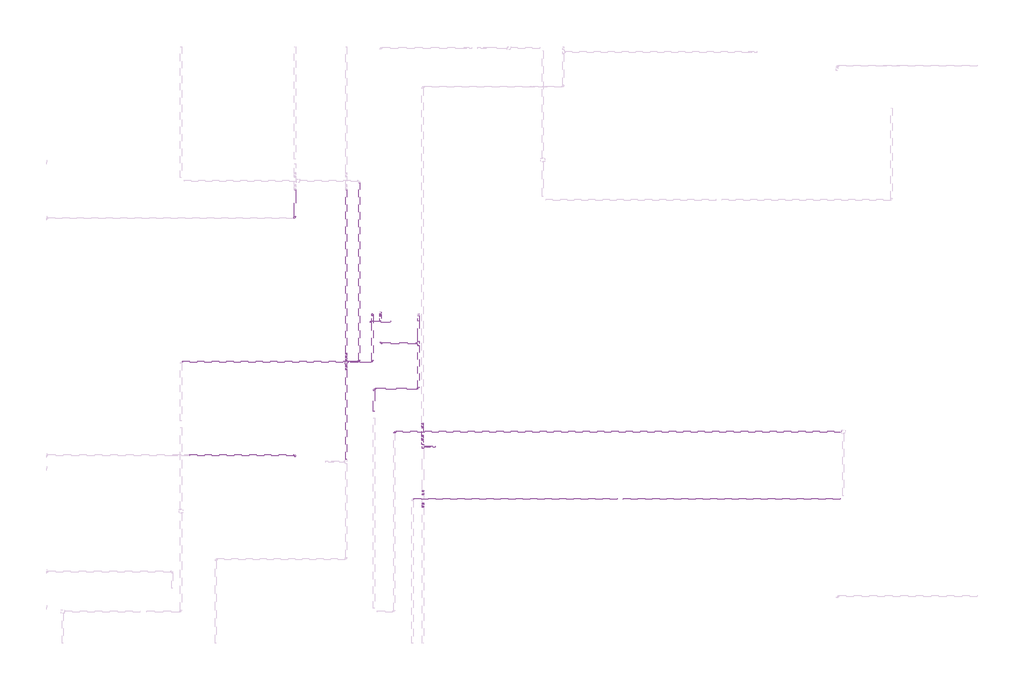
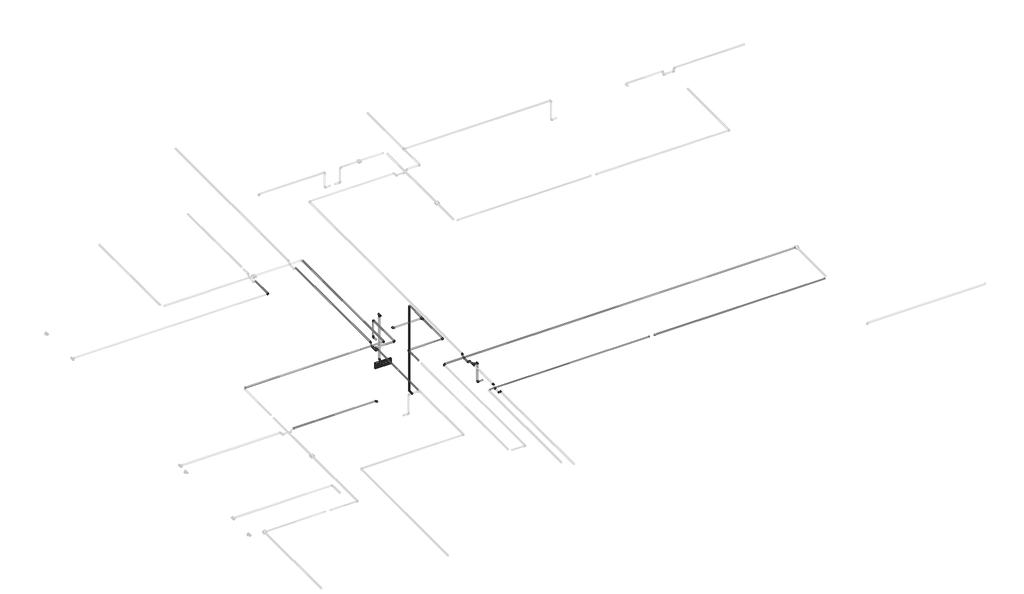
# One storey, part 34 of 40: 35 cable carrier segments, 30 cable carrier fittings, 1 alarm.
"""IFC4 building model written with IfcOpenShell, lengths in millimetres."""

from ifc_helpers import new_model, si_unit, point, frame, frame_2d, origin, place, context, project, spatial, circle_curve, trimmed, segment, composite_curve, outline, extrude, transform, mapped, element, save
from ifc_brep_helpers import plane_surface, cylinder_surface, advanced_brep
from components import alarm_4b7e8fd8, cable_carrier_fitting_69f1a801, cable_carrier_fitting_8122f9af, cable_carrier_fitting_8fd13dfc

model = new_model("IFC4")

# Units and contexts
model_context = context("Model", 3, world=origin())
ifc_project = project(units=[si_unit("LENGTHUNIT", "METRE", prefix="MILLI")], contexts=[model_context])

# Site, building, storey
site = spatial("IfcSite", under=ifc_project)
building = spatial("IfcBuilding", under=site)
storey = spatial("IfcBuildingStorey", under=building, Name="1 этаж", Elevation=0.0)

# Alarm
placement = place(None, origin())
alarm_shape = alarm_4b7e8fd8(model_context)
element("IfcAlarm", 1, ObjectType="RBZ_Оповещатель_Световой_Рубеж_ОПОП1-R3(грань) : ОПОП 1-R3 \"Выход\"", at=placement, inside=storey, context=model_context, shape_type="MappedRepresentation", body=[
    mapped(alarm_shape, transform((10642.6759979, 12064.6370105, 2300.0), x_axis=(1.0, 0.0, 0.0), y_axis=(0.0, 0.0, 1.0), z_axis=(0.0, -1.0, 0.0))),
])

# Cable carrier fittings
cable_carrier_fitting_shape = cable_carrier_fitting_69f1a801(model_context)
element("IfcCableCarrierFitting", 2, ObjectType="ADSK_Поворот_Минимальный размер : Неспецифицируемый", at=placement, inside=storey, context=model_context, shape_type="MappedRepresentation", body=[
    mapped(cable_carrier_fitting_shape, transform((10844.1759979, 10434.6370105, 3189.25), x_axis=(-1.0, 0.0, 0.0), y_axis=(0.0, -1.0, 0.0), z_axis=(0.0, 0.0, 1.0))),
])
element("IfcCableCarrierFitting", 3, ObjectType="ADSK_Поворот_Минимальный размер : Неспецифицируемый", at=placement, inside=storey, context=model_context, shape_type="MappedRepresentation", body=[
    mapped(cable_carrier_fitting_shape, transform((10642.6759979, 11734.6370105, 3189.25), x_axis=(0.0, -1.0, 0.0), y_axis=(1.0, 0.0, 0.0), z_axis=(0.0, 0.0, 1.0))),
])
element("IfcCableCarrierFitting", 4, ObjectType="ADSK_Поворот_Минимальный размер : Неспецифицируемый", at=placement, inside=storey, context=model_context, shape_type="MappedRepresentation", body=[
    mapped(cable_carrier_fitting_shape, transform((10327.6759979, 11464.6370416, 3189.2996955), x_axis=(0.999999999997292, 0.0, 2.327216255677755e-06), y_axis=(0.0, 1.0, 0.0), z_axis=(-2.327216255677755e-06, 0.0, 0.999999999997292))),
])
element("IfcCableCarrierFitting", 5, ObjectType="ADSK_Поворот_Минимальный размер : Неспецифицируемый", at=placement, inside=storey, context=model_context, shape_type="MappedRepresentation", body=[
    mapped(cable_carrier_fitting_shape, transform((11197.6759979, 11064.636788, 3189.25), x_axis=(0.9999999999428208, 0.0, -1.0693844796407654e-05), y_axis=(0.0, 1.0, 0.0), z_axis=(1.0693844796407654e-05, 0.0, 0.9999999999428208))),
])
element("IfcCableCarrierFitting", 6, ObjectType="ADSK_Поворот_Минимальный размер : Неспецифицируемый", at=placement, inside=storey, context=model_context, shape_type="MappedRepresentation", body=[
    mapped(cable_carrier_fitting_shape, transform((10547.6759458, 11064.636788, 3189.2549719), x_axis=(-0.9999999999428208, 0.0, 1.0693844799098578e-05), y_axis=(0.0, -1.0, 0.0), z_axis=(1.0693844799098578e-05, 0.0, 0.9999999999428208))),
])
element("IfcCableCarrierFitting", 7, ObjectType="ADSK_Поворот_Минимальный размер : Неспецифицируемый", at=placement, inside=storey, context=model_context, shape_type="MappedRepresentation", body=[
    mapped(cable_carrier_fitting_shape, transform((11350.4761923, 10214.6370105, 2797.4861504), x_axis=(-1.0, 0.0, 0.0), y_axis=(0.0, 0.0, 1.0), z_axis=(0.0, 1.0, 0.0))),
])
element("IfcCableCarrierFitting", 8, ObjectType="ADSK_Поворот_Минимальный размер : Неспецифицируемый", at=placement, inside=storey, context=model_context, shape_type="MappedRepresentation", body=[
    mapped(cable_carrier_fitting_shape, transform((11350.4761923, 10214.6370105, 3180.0), x_axis=(0.0, 0.0, 1.0), y_axis=(-1.0, 0.0, 0.0), z_axis=(0.0, -1.0, 0.0))),
])
element("IfcCableCarrierFitting", 9, ObjectType="ADSK_Поворот_Минимальный размер : Неспецифицируемый", at=placement, inside=storey, context=model_context, shape_type="MappedRepresentation", body=[
    mapped(cable_carrier_fitting_shape, transform((10522.6759979, 12161.8368161, 2797.4861504), x_axis=(0.0, 1.0, 0.0), y_axis=(0.0, 0.0, 1.0), z_axis=(1.0, 0.0, 0.0))),
])
element("IfcCableCarrierFitting", 10, ObjectType="ADSK_Поворот_Минимальный размер : Неспецифицируемый", at=placement, inside=storey, context=model_context, shape_type="MappedRepresentation", body=[
    mapped(cable_carrier_fitting_shape, transform((10642.6759979, 12161.8368161, 2300.0), x_axis=(0.0, 1.0, 0.0), y_axis=(0.0, 0.0, 1.0), z_axis=(1.0, 0.0, 0.0))),
])
element("IfcCableCarrierFitting", 11, ObjectType="ADSK_Поворот_Минимальный размер : Неспецифицируемый", at=placement, inside=storey, context=model_context, shape_type="MappedRepresentation", body=[
    mapped(cable_carrier_fitting_shape, transform((11197.6759979, 12161.8368161, 1500.0), x_axis=(0.0, 1.0, 0.0), y_axis=(0.0, 0.0, 1.0), z_axis=(1.0, 0.0, 0.0))),
])
element("IfcCableCarrierFitting", 12, ObjectType="ADSK_Поворот_Минимальный размер : Неспецифицируемый", at=placement, inside=storey, context=model_context, shape_type="MappedRepresentation", body=[
    mapped(cable_carrier_fitting_shape, transform((9382.6759979, 13578.8048473, 3187.0), x_axis=(1.0, 0.0, 0.0), y_axis=(0.0, 1.0, 0.0), z_axis=(0.0, 0.0, 1.0))),
])
element("IfcCableCarrierFitting", 13, ObjectType="ADSK_Поворот_Минимальный размер : Неспецифицируемый", at=placement, inside=storey, context=model_context, shape_type="MappedRepresentation", body=[
    mapped(cable_carrier_fitting_shape, transform((9386.5137184, 10087.0987933, 3187.0), x_axis=(0.0, 1.0, 0.0), y_axis=(-1.0, 0.0, 0.0), z_axis=(0.0, 0.0, 1.0))),
])
element("IfcCableCarrierFitting", 14, ObjectType="ADSK_Поворот_Минимальный размер : Неспецифицируемый", at=placement, inside=storey, context=model_context, shape_type="MappedRepresentation", body=[
    mapped(cable_carrier_fitting_shape, transform((10522.6759979, 12161.8368161, 3130.0), x_axis=(0.0, 0.0, 1.0), y_axis=(0.0, -1.0, 0.0), z_axis=(1.0, 0.0, 0.0))),
])
element("IfcCableCarrierFitting", 15, ObjectType="ADSK_Поворот_Минимальный размер : Неспецифицируемый", at=placement, inside=storey, context=model_context, shape_type="MappedRepresentation", body=[
    mapped(cable_carrier_fitting_shape, transform((10522.6759979, 11461.8368161, 3130.0), x_axis=(1.0, 0.0, 0.0), y_axis=(0.0, 1.0, 0.0), z_axis=(0.0, 0.0, 1.0))),
])
cable_carrier_fitting_2_shape = cable_carrier_fitting_8122f9af(model_context)
element("IfcCableCarrierFitting", 16, ObjectType="ADSK_Поворот_Минимальный размер : Неспецифицируемый", at=placement, inside=storey, context=model_context, shape_type="MappedRepresentation", body=[
    mapped(cable_carrier_fitting_2_shape, transform((10136.5137184, 11348.0647703, 3180.0), x_axis=(0.0, 1.0, 0.0), y_axis=(0.0, 0.0, -1.0), z_axis=(-1.0, 0.0, 0.0))),
])
element("IfcCableCarrierFitting", 17, ObjectType="ADSK_Поворот_Минимальный размер : Неспецифицируемый", at=placement, inside=storey, context=model_context, shape_type="MappedRepresentation", body=[
    mapped(cable_carrier_fitting_2_shape, transform((10136.5137184, 11398.0647703, 3130.0), x_axis=(0.0, 0.7071067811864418, -0.7071067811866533), y_axis=(0.0, 0.7071067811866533, 0.7071067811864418), z_axis=(1.0, 0.0, 0.0))),
])
element("IfcCableCarrierFitting", 18, ObjectType="ADSK_Поворот_Минимальный размер : Неспецифицируемый", at=placement, inside=storey, context=model_context, shape_type="MappedRepresentation", body=[
    mapped(cable_carrier_fitting_2_shape, transform((10136.5137184, 11531.2093128, 3130.0), x_axis=(0.0, 1.0, 0.0), y_axis=(0.0, 0.0, 1.0), z_axis=(1.0, 0.0, 0.0))),
])
element("IfcCableCarrierFitting", 19, ObjectType="ADSK_Поворот_Минимальный размер : Неспецифицируемый", at=placement, inside=storey, context=model_context, shape_type="MappedRepresentation", body=[
    mapped(cable_carrier_fitting_2_shape, transform((11267.6759979, 9561.2092818, 3180.0), x_axis=(0.0, -1.0, 0.0), y_axis=(0.0, 0.0, -1.0), z_axis=(1.0, 0.0, 0.0))),
])
element("IfcCableCarrierFitting", 20, ObjectType="ADSK_Поворот_Минимальный размер : Неспецифицируемый", at=placement, inside=storey, context=model_context, shape_type="MappedRepresentation", body=[
    mapped(cable_carrier_fitting_2_shape, transform((11267.6759979, 9511.2092818, 3130.0), x_axis=(0.0, -0.7071067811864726, -0.7071067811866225), y_axis=(0.0, -0.7071067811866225, 0.7071067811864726), z_axis=(-1.0, 0.0, 0.0))),
])
element("IfcCableCarrierFitting", 21, ObjectType="ADSK_Поворот_Минимальный размер : Неспецифицируемый", at=placement, inside=storey, context=model_context, shape_type="MappedRepresentation", body=[
    mapped(cable_carrier_fitting_2_shape, transform((11267.6759979, 9378.0647393, 3130.0), x_axis=(0.0, -1.0, 0.0), y_axis=(0.0, 0.0, 1.0), z_axis=(-1.0, 0.0, 0.0))),
])
element("IfcCableCarrierFitting", 22, ObjectType="ADSK_Поворот_Минимальный размер : Неспецифицируемый", at=placement, inside=storey, context=model_context, shape_type="MappedRepresentation", body=[
    mapped(cable_carrier_fitting_2_shape, transform((11267.6759979, 9328.0647393, 3180.0), x_axis=(0.0, -0.7071067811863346, 0.7071067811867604), y_axis=(0.0, -0.7071067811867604, -0.7071067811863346), z_axis=(1.0, 0.0, 0.0))),
])
element("IfcCableCarrierFitting", 23, ObjectType="ADSK_Поворот_Минимальный размер : Неспецифицируемый", at=placement, inside=storey, context=model_context, shape_type="MappedRepresentation", body=[
    mapped(cable_carrier_fitting_2_shape, transform((11261.1110267, 10501.2092818, 3130.0), x_axis=(0.0, -0.7071067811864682, -0.7071067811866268), y_axis=(0.0, -0.7071067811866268, 0.7071067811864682), z_axis=(-1.0, 0.0, 0.0))),
])
element("IfcCableCarrierFitting", 24, ObjectType="ADSK_Поворот_Минимальный размер : Неспецифицируемый", at=placement, inside=storey, context=model_context, shape_type="MappedRepresentation", body=[
    mapped(cable_carrier_fitting_2_shape, transform((11261.1110267, 10368.0647393, 3130.0), x_axis=(0.0, -1.0, 0.0), y_axis=(0.0, 0.0, 1.0), z_axis=(-1.0, 0.0, 0.0))),
])
element("IfcCableCarrierFitting", 25, ObjectType="ADSK_Поворот_Минимальный размер : Неспецифицируемый", at=placement, inside=storey, context=model_context, shape_type="MappedRepresentation", body=[
    mapped(cable_carrier_fitting_2_shape, transform((11261.1110267, 10318.0647393, 3180.0), x_axis=(0.0, -0.7071067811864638, 0.7071067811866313), y_axis=(0.0, -0.7071067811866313, -0.7071067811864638), z_axis=(1.0, 0.0, 0.0))),
])
element("IfcCableCarrierFitting", 26, ObjectType="ADSK_Поворот_Минимальный размер : Неспецифицируемый", at=placement, inside=storey, context=model_context, shape_type="MappedRepresentation", body=[
    mapped(cable_carrier_fitting_2_shape, transform((10136.5137184, 11581.2093128, 3180.0), x_axis=(0.0, 0.7071067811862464, 0.7071067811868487), y_axis=(0.0, 0.7071067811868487, -0.7071067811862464), z_axis=(-1.0, 0.0, 0.0))),
])
element("IfcCableCarrierFitting", 27, ObjectType="ADSK_Поворот_Минимальный размер : Неспецифицируемый", at=placement, inside=storey, context=model_context, shape_type="MappedRepresentation", body=[
    mapped(cable_carrier_fitting_2_shape, transform((11261.1110267, 10551.2092818, 3180.0), x_axis=(0.0, 0.7071067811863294, 0.7071067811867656), y_axis=(0.0, 0.7071067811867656, -0.7071067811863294), z_axis=(-1.0, 0.0, 0.0))),
])
cable_carrier_fitting_3_shape = cable_carrier_fitting_8fd13dfc(model_context)
element("IfcCableCarrierFitting", 28, ObjectType="ADSK_Тройник : ПВХ", at=placement, inside=storey, context=model_context, shape_type="MappedRepresentation", body=[
    mapped(cable_carrier_fitting_3_shape, transform((11197.6759979, 11734.6370105, 3189.3), x_axis=(0.0, -1.0, 0.0), y_axis=(1.0, 0.0, 0.0), z_axis=(0.0, 0.0, 1.0))),
])
element("IfcCableCarrierFitting", 29, ObjectType="ADSK_Тройник : ПВХ", at=placement, inside=storey, context=model_context, shape_type="MappedRepresentation", body=[
    mapped(cable_carrier_fitting_3_shape, transform((11267.6759979, 10214.6370105, 3180.0), x_axis=(0.0, 1.0, 0.0), y_axis=(-1.0, 0.0, 0.0), z_axis=(0.0, 0.0, 1.0))),
])
element("IfcCableCarrierFitting", 30, ObjectType="ADSK_Тройник : ПВХ", at=placement, inside=storey, context=model_context, shape_type="MappedRepresentation", body=[
    mapped(cable_carrier_fitting_3_shape, transform((10642.6759979, 12161.8368161, 3189.2499175), x_axis=(0.0, -0.9999999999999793, 2.03156718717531e-07), y_axis=(0.0, 2.03156718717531e-07, 0.9999999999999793), z_axis=(-1.0, 0.0, 0.0))),
])
element("IfcCableCarrierFitting", 31, ObjectType="ADSK_Тройник : ПВХ", at=placement, inside=storey, context=model_context, shape_type="MappedRepresentation", body=[
    mapped(cable_carrier_fitting_3_shape, transform((10136.5137184, 11461.8368161, 3130.0), x_axis=(0.0, 1.0, 0.0), y_axis=(-1.0, 0.0, 0.0), z_axis=(0.0, 0.0, 1.0))),
])

# Cable carrier segments
element("IfcCableCarrierSegment", 32, ObjectType="Гофрированная труба", at=placement, inside=storey, context=model_context, shape_type="SweptSolid", body=[
    extrude(outline(composite_curve([segment(trimmed(circle_curve(frame_2d((0.0, 10.0)), 10.0), [point((-10.0, 10.0))], [point((0.0, 20.0))], False, "CARTESIAN"), True, "CONTINUOUS"), segment(trimmed(circle_curve(frame_2d((0.0, 10.0)), 10.0), [point((0.0, 20.0))], [point((10.0, 10.0))], False, "CARTESIAN"), True, "CONTINUOUS"), segment(trimmed(circle_curve(frame_2d((0.0, 10.0)), 10.0), [point((10.0, 10.0))], [point((0.0, 0.0))], False, "CARTESIAN"), True, "CONTINUOUS"), segment(trimmed(circle_curve(frame_2d((0.0, 10.0)), 10.0), [point((0.0, 0.0))], [point((-10.0, 10.0))], False, "CARTESIAN"), True, "CONTINUOUS")], self_intersect=False)), frame((14121.1759161, 9444.6370105, 3179.25), z_axis=(-0.9999999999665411, 0.0, 8.180339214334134e-06), x_axis=(0.0, -1.0, 0.0)), (0.0, 0.0, 1.0), 2988.9999811),
])
element("IfcCableCarrierSegment", 33, ObjectType="Гофрированная труба", at=placement, inside=storey, context=model_context, shape_type="SweptSolid", body=[
    extrude(outline(composite_curve([segment(trimmed(circle_curve(frame_2d((10434.6370105, 3189.25)), 10.0), [point((10444.6370105, 3189.25))], [point((10434.6370105, 3179.25))], False, "CARTESIAN"), True, "CONTINUOUS"), segment(trimmed(circle_curve(frame_2d((10434.6370105, 3189.25)), 10.0), [point((10434.6370105, 3179.25))], [point((10424.6370105, 3189.25))], False, "CARTESIAN"), True, "CONTINUOUS"), segment(trimmed(circle_curve(frame_2d((10434.6370105, 3189.25)), 10.0), [point((10424.6370105, 3189.25))], [point((10434.6370105, 3199.25))], False, "CARTESIAN"), True, "CONTINUOUS"), segment(trimmed(circle_curve(frame_2d((10434.6370105, 3189.25)), 10.0), [point((10434.6370105, 3199.25))], [point((10444.6370105, 3189.25))], False, "CARTESIAN"), True, "CONTINUOUS")], self_intersect=False)), frame((10865.1759979, 0.0, 0.0), z_axis=(1.0, 0.0, 0.0), x_axis=(0.0, 1.0, 0.0)), (0.0, 0.0, 1.0), 6556.5),
])
element("IfcCableCarrierSegment", 34, ObjectType="Гофрированная труба", at=placement, inside=storey, context=model_context, shape_type="SweptSolid", body=[
    extrude(outline(composite_curve([segment(trimmed(circle_curve(frame_2d((9444.6370105, 3189.25)), 10.0), [point((9454.6370105, 3189.25))], [point((9444.6370105, 3179.25))], False, "CARTESIAN"), True, "CONTINUOUS"), segment(trimmed(circle_curve(frame_2d((9444.6370105, 3189.25)), 10.0), [point((9444.6370105, 3179.25))], [point((9434.6370105, 3189.25))], False, "CARTESIAN"), True, "CONTINUOUS"), segment(trimmed(circle_curve(frame_2d((9444.6370105, 3189.25)), 10.0), [point((9434.6370105, 3189.25))], [point((9444.6370105, 3199.25))], False, "CARTESIAN"), True, "CONTINUOUS"), segment(trimmed(circle_curve(frame_2d((9444.6370105, 3189.25)), 10.0), [point((9444.6370105, 3199.25))], [point((9454.6370105, 3189.25))], False, "CARTESIAN"), True, "CONTINUOUS")], self_intersect=False)), frame((14214.1759979, 0.0, 0.0), z_axis=(1.0, 0.0, 0.0), x_axis=(0.0, 1.0, 0.0)), (0.0, 0.0, 1.0), 3187.0),
])
element("IfcCableCarrierSegment", 35, ObjectType="Гофрированная труба", at=placement, inside=storey, context=model_context, shape_type="SweptSolid", body=[
    extrude(outline(composite_curve([segment(trimmed(circle_curve(frame_2d((3189.2549719, 10547.6759458)), 10.0), [point((3189.2548604, 10557.6759458))], [point((3199.2549719, 10547.6760573))], False, "CARTESIAN"), True, "CONTINUOUS"), segment(trimmed(circle_curve(frame_2d((3189.2549719, 10547.6759458)), 10.0), [point((3199.2549719, 10547.6760573))], [point((3189.2550835, 10537.6759458))], False, "CARTESIAN"), True, "CONTINUOUS"), segment(trimmed(circle_curve(frame_2d((3189.2549719, 10547.6759458)), 10.0), [point((3189.2550835, 10537.6759458))], [point((3179.2549719, 10547.6758342))], False, "CARTESIAN"), True, "CONTINUOUS"), segment(trimmed(circle_curve(frame_2d((3189.2549719, 10547.6759458)), 10.0), [point((3179.2549719, 10547.6758342))], [point((3189.2548604, 10557.6759458))], False, "CARTESIAN"), True, "CONTINUOUS")], self_intersect=False)), frame((0.0, 10731.1370105, 0.0), z_axis=(0.0, 1.0, 0.0), x_axis=(0.0, 0.0, 1.0)), (0.0, 0.0, 1.0), 312.4997774),
])
element("IfcCableCarrierSegment", 36, ObjectType="Гофрированная труба", at=placement, inside=storey, context=model_context, shape_type="SweptSolid", body=[
    extrude(outline(composite_curve([segment(trimmed(circle_curve(frame_2d((0.0, 10.0)), 10.0), [point((-10.0, 10.0))], [point((0.0, 20.0))], False, "CARTESIAN"), True, "CONTINUOUS"), segment(trimmed(circle_curve(frame_2d((0.0, 10.0)), 10.0), [point((0.0, 20.0))], [point((10.0, 10.0))], False, "CARTESIAN"), True, "CONTINUOUS"), segment(trimmed(circle_curve(frame_2d((0.0, 10.0)), 10.0), [point((10.0, 10.0))], [point((0.0, 0.0))], False, "CARTESIAN"), True, "CONTINUOUS"), segment(trimmed(circle_curve(frame_2d((0.0, 10.0)), 10.0), [point((0.0, 0.0))], [point((-10.0, 10.0))], False, "CARTESIAN"), True, "CONTINUOUS")], self_intersect=False)), frame((11176.6759235, 11064.636788, 3179.2502246), z_axis=(-0.9999999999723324, 0.0, 7.438773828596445e-06), x_axis=(0.0, -1.0, 0.0)), (0.0, 0.0, 1.0), 608.0000521),
])
element("IfcCableCarrierSegment", 37, ObjectType="Гофрированная труба", at=placement, inside=storey, context=model_context, shape_type="SweptSolid", body=[
    extrude(outline(composite_curve([segment(trimmed(circle_curve(frame_2d((3189.3, 11197.6759979)), 10.0), [point((3189.3, 11187.6759979))], [point((3179.3, 11197.6759979))], False, "CARTESIAN"), True, "CONTINUOUS"), segment(trimmed(circle_curve(frame_2d((3189.3, 11197.6759979)), 10.0), [point((3179.3, 11197.6759979))], [point((3189.3, 11207.6759979))], False, "CARTESIAN"), True, "CONTINUOUS"), segment(trimmed(circle_curve(frame_2d((3189.3, 11197.6759979)), 10.0), [point((3189.3, 11207.6759979))], [point((3199.3, 11197.6759979))], False, "CARTESIAN"), True, "CONTINUOUS"), segment(trimmed(circle_curve(frame_2d((3189.3, 11197.6759979)), 10.0), [point((3199.3, 11197.6759979))], [point((3189.3, 11187.6759979))], False, "CARTESIAN"), True, "CONTINUOUS")], self_intersect=False)), frame((0.0, 11085.636788, 0.0), z_axis=(0.0, 1.0, 0.0), x_axis=(0.0, 0.0, 1.0)), (0.0, 0.0, 1.0), 619.0002226),
])
element("IfcCableCarrierSegment", 38, ObjectType="Гофрированная труба", at=placement, inside=storey, context=model_context, shape_type="SweptSolid", body=[
    extrude(outline(composite_curve([segment(trimmed(circle_curve(frame_2d((11734.6370105, 3189.3)), 10.0), [point((11744.6370105, 3189.3))], [point((11734.6370105, 3179.3))], False, "CARTESIAN"), True, "CONTINUOUS"), segment(trimmed(circle_curve(frame_2d((11734.6370105, 3189.3)), 10.0), [point((11734.6370105, 3179.3))], [point((11724.6370105, 3189.3))], False, "CARTESIAN"), True, "CONTINUOUS"), segment(trimmed(circle_curve(frame_2d((11734.6370105, 3189.3)), 10.0), [point((11724.6370105, 3189.3))], [point((11734.6370105, 3199.3))], False, "CARTESIAN"), True, "CONTINUOUS"), segment(trimmed(circle_curve(frame_2d((11734.6370105, 3189.3)), 10.0), [point((11734.6370105, 3199.3))], [point((11744.6370105, 3189.3))], False, "CARTESIAN"), True, "CONTINUOUS")], self_intersect=False)), frame((10663.6759979, 0.0, 0.0), z_axis=(1.0, 0.0, 0.0), x_axis=(0.0, 1.0, 0.0)), (0.0, 0.0, 1.0), 504.0),
])
element("IfcCableCarrierSegment", 39, ObjectType="Гофрированная труба", at=placement, inside=storey, context=model_context, shape_type="SweptSolid", body=[
    extrude(outline(composite_curve([segment(trimmed(circle_curve(frame_2d((3189.2996955, 10327.6759979)), 10.0), [point((3189.2996955, 10317.6759979))], [point((3179.2996955, 10327.6759979))], False, "CARTESIAN"), True, "CONTINUOUS"), segment(trimmed(circle_curve(frame_2d((3189.2996955, 10327.6759979)), 10.0), [point((3179.2996955, 10327.6759979))], [point((3189.2996955, 10337.6759979))], False, "CARTESIAN"), True, "CONTINUOUS"), segment(trimmed(circle_curve(frame_2d((3189.2996955, 10327.6759979)), 10.0), [point((3189.2996955, 10337.6759979))], [point((3199.2996955, 10327.6759979))], False, "CARTESIAN"), True, "CONTINUOUS"), segment(trimmed(circle_curve(frame_2d((3189.2996955, 10327.6759979)), 10.0), [point((3199.2996955, 10327.6759979))], [point((3189.2996955, 10317.6759979))], False, "CARTESIAN"), True, "CONTINUOUS")], self_intersect=False)), frame((0.0, 11485.6370416, 0.0), z_axis=(0.0, 1.0, 0.0), x_axis=(0.0, 0.0, 1.0)), (0.0, 0.0, 1.0), 2617.999969),
])
element("IfcCableCarrierSegment", 40, ObjectType="Гофрированная труба", at=placement, inside=storey, context=model_context, shape_type="SweptSolid", body=[
    extrude(outline(composite_curve([segment(trimmed(circle_curve(frame_2d((0.0, 10.0)), 10.0), [point((-10.0, 10.0))], [point((0.0, 20.0))], False, "CARTESIAN"), True, "CONTINUOUS"), segment(trimmed(circle_curve(frame_2d((0.0, 10.0)), 10.0), [point((0.0, 20.0))], [point((10.0, 10.0))], False, "CARTESIAN"), True, "CONTINUOUS"), segment(trimmed(circle_curve(frame_2d((0.0, 10.0)), 10.0), [point((10.0, 10.0))], [point((0.0, 0.0))], False, "CARTESIAN"), True, "CONTINUOUS"), segment(trimmed(circle_curve(frame_2d((0.0, 10.0)), 10.0), [point((0.0, 0.0))], [point((-10.0, 10.0))], False, "CARTESIAN"), True, "CONTINUOUS")], self_intersect=False)), frame((7728.6758067, 11464.6370416, 3179.2924395), z_axis=(0.9999999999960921, 0.0, 2.795657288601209e-06), x_axis=(0.0, 1.0, 0.0)), (0.0, 0.0, 1.0), 2578.0002192),
])
element("IfcCableCarrierSegment", 41, ObjectType="Гофрированная труба", at=placement, inside=storey, context=model_context, shape_type="SweptSolid", body=[
    extrude(outline(composite_curve([segment(trimmed(circle_curve(frame_2d((10214.6370105, 3180.0)), 10.0), [point((10204.6370105, 3180.0))], [point((10214.6370105, 3190.0))], False, "CARTESIAN"), True, "CONTINUOUS"), segment(trimmed(circle_curve(frame_2d((10214.6370105, 3180.0)), 10.0), [point((10214.6370105, 3190.0))], [point((10224.6370105, 3180.0))], False, "CARTESIAN"), True, "CONTINUOUS"), segment(trimmed(circle_curve(frame_2d((10214.6370105, 3180.0)), 10.0), [point((10224.6370105, 3180.0))], [point((10214.6370105, 3170.0))], False, "CARTESIAN"), True, "CONTINUOUS"), segment(trimmed(circle_curve(frame_2d((10214.6370105, 3180.0)), 10.0), [point((10214.6370105, 3170.0))], [point((10204.6370105, 3180.0))], False, "CARTESIAN"), True, "CONTINUOUS")], self_intersect=False)), frame((11297.6759979, 0.0, 0.0), z_axis=(1.0, 0.0, 0.0), x_axis=(0.0, 1.0, 0.0)), (0.0, 0.0, 1.0), 31.8001944),
])
element("IfcCableCarrierSegment", 42, ObjectType="Гофрированная труба", at=placement, inside=storey, context=model_context, shape_type="SweptSolid", body=[
    extrude(outline(composite_curve([segment(trimmed(circle_curve(frame_2d((10214.6370105, 2797.4861504)), 10.0), [point((10224.6370105, 2797.4861504))], [point((10214.6370105, 2787.4861504))], False, "CARTESIAN"), True, "CONTINUOUS"), segment(trimmed(circle_curve(frame_2d((10214.6370105, 2797.4861504)), 10.0), [point((10214.6370105, 2787.4861504))], [point((10204.6370105, 2797.4861504))], False, "CARTESIAN"), True, "CONTINUOUS"), segment(trimmed(circle_curve(frame_2d((10214.6370105, 2797.4861504)), 10.0), [point((10204.6370105, 2797.4861504))], [point((10214.6370105, 2807.4861504))], False, "CARTESIAN"), True, "CONTINUOUS"), segment(trimmed(circle_curve(frame_2d((10214.6370105, 2797.4861504)), 10.0), [point((10214.6370105, 2807.4861504))], [point((10224.6370105, 2797.4861504))], False, "CARTESIAN"), True, "CONTINUOUS")], self_intersect=False)), frame((11371.4761923, 0.0, 0.0), z_axis=(1.0, 0.0, 0.0), x_axis=(0.0, 1.0, 0.0)), (0.0, 0.0, 1.0), 76.1998056),
])
element("IfcCableCarrierSegment", 43, ObjectType="Гофрированная труба", at=placement, inside=storey, context=model_context, shape_type="SweptSolid", body=[
    extrude(outline(composite_curve([segment(trimmed(circle_curve(frame_2d((11350.4761923, 10214.6370105)), 10.0), [point((11340.4761923, 10214.6370105))], [point((11350.4761923, 10224.6370105))], False, "CARTESIAN"), True, "CONTINUOUS"), segment(trimmed(circle_curve(frame_2d((11350.4761923, 10214.6370105)), 10.0), [point((11350.4761923, 10224.6370105))], [point((11360.4761923, 10214.6370105))], False, "CARTESIAN"), True, "CONTINUOUS"), segment(trimmed(circle_curve(frame_2d((11350.4761923, 10214.6370105)), 10.0), [point((11360.4761923, 10214.6370105))], [point((11350.4761923, 10204.6370105))], False, "CARTESIAN"), True, "CONTINUOUS"), segment(trimmed(circle_curve(frame_2d((11350.4761923, 10214.6370105)), 10.0), [point((11350.4761923, 10204.6370105))], [point((11340.4761923, 10214.6370105))], False, "CARTESIAN"), True, "CONTINUOUS")], self_intersect=False)), frame((0.0, 0.0, 2818.4861504), z_axis=(0.0, 0.0, 1.0), x_axis=(1.0, 0.0, 0.0)), (0.0, 0.0, 1.0), 340.5138496),
])
element("IfcCableCarrierSegment", 44, ObjectType="Гофрированная труба", at=placement, inside=storey, context=model_context, shape_type="SweptSolid", body=[
    extrude(outline(composite_curve([segment(trimmed(circle_curve(frame_2d((3130.0, 11261.1110267)), 10.0), [point((3130.0, 11251.1110267))], [point((3120.0, 11261.1110267))], False, "CARTESIAN"), True, "CONTINUOUS"), segment(trimmed(circle_curve(frame_2d((3130.0, 11261.1110267)), 10.0), [point((3120.0, 11261.1110267))], [point((3130.0, 11271.1110267))], False, "CARTESIAN"), True, "CONTINUOUS"), segment(trimmed(circle_curve(frame_2d((3130.0, 11261.1110267)), 10.0), [point((3130.0, 11271.1110267))], [point((3140.0, 11261.1110267))], False, "CARTESIAN"), True, "CONTINUOUS"), segment(trimmed(circle_curve(frame_2d((3130.0, 11261.1110267)), 10.0), [point((3140.0, 11261.1110267))], [point((3130.0, 11251.1110267))], False, "CARTESIAN"), True, "CONTINUOUS")], self_intersect=False)), frame((0.0, 10377.3490105, 0.0), z_axis=(0.0, 1.0, 0.0), x_axis=(0.0, 0.0, 1.0)), (0.0, 0.0, 1.0), 114.576),
])
element("IfcCableCarrierSegment", 45, ObjectType="Гофрированная труба", at=placement, inside=storey, context=model_context, shape_type="SweptSolid", body=[
    extrude(outline(composite_curve([segment(trimmed(circle_curve(frame_2d((2797.4861504, 10522.6759979)), 10.0), [point((2797.4861504, 10532.6759979))], [point((2807.4861504, 10522.6759979))], False, "CARTESIAN"), True, "CONTINUOUS"), segment(trimmed(circle_curve(frame_2d((2797.4861504, 10522.6759979)), 10.0), [point((2807.4861504, 10522.6759979))], [point((2797.4861504, 10512.6759979))], False, "CARTESIAN"), True, "CONTINUOUS"), segment(trimmed(circle_curve(frame_2d((2797.4861504, 10522.6759979)), 10.0), [point((2797.4861504, 10512.6759979))], [point((2787.4861504, 10522.6759979))], False, "CARTESIAN"), True, "CONTINUOUS"), segment(trimmed(circle_curve(frame_2d((2797.4861504, 10522.6759979)), 10.0), [point((2787.4861504, 10522.6759979))], [point((2797.4861504, 10532.6759979))], False, "CARTESIAN"), True, "CONTINUOUS")], self_intersect=False)), frame((0.0, 12064.6370105, 0.0), z_axis=(0.0, 1.0, 0.0), x_axis=(0.0, 0.0, 1.0)), (0.0, 0.0, 1.0), 76.1998056),
])
element("IfcCableCarrierSegment", 46, ObjectType="Гофрированная труба", at=placement, inside=storey, context=model_context, shape_type="SweptSolid", body=[
    extrude(outline(composite_curve([segment(trimmed(circle_curve(frame_2d((10522.6759979, 12161.8368161)), 10.0), [point((10512.6759979, 12161.8368161))], [point((10522.6759979, 12171.8368161))], False, "CARTESIAN"), True, "CONTINUOUS"), segment(trimmed(circle_curve(frame_2d((10522.6759979, 12161.8368161)), 10.0), [point((10522.6759979, 12171.8368161))], [point((10532.6759979, 12161.8368161))], False, "CARTESIAN"), True, "CONTINUOUS"), segment(trimmed(circle_curve(frame_2d((10522.6759979, 12161.8368161)), 10.0), [point((10532.6759979, 12161.8368161))], [point((10522.6759979, 12151.8368161))], False, "CARTESIAN"), True, "CONTINUOUS"), segment(trimmed(circle_curve(frame_2d((10522.6759979, 12161.8368161)), 10.0), [point((10522.6759979, 12151.8368161))], [point((10512.6759979, 12161.8368161))], False, "CARTESIAN"), True, "CONTINUOUS")], self_intersect=False)), frame((0.0, 0.0, 2818.4861504), z_axis=(0.0, 0.0, 1.0), x_axis=(1.0, 0.0, 0.0)), (0.0, 0.0, 1.0), 290.5138496),
])
element("IfcCableCarrierSegment", 47, ObjectType="Гофрированная труба", at=placement, inside=storey, context=model_context, shape_type="SweptSolid", body=[
    extrude(outline(composite_curve([segment(trimmed(circle_curve(frame_2d((3130.0, 10136.5137184)), 10.0), [point((3130.0, 10146.5137184))], [point((3140.0, 10136.5137184))], False, "CARTESIAN"), True, "CONTINUOUS"), segment(trimmed(circle_curve(frame_2d((3130.0, 10136.5137184)), 10.0), [point((3140.0, 10136.5137184))], [point((3130.0, 10126.5137184))], False, "CARTESIAN"), True, "CONTINUOUS"), segment(trimmed(circle_curve(frame_2d((3130.0, 10136.5137184)), 10.0), [point((3130.0, 10126.5137184))], [point((3120.0, 10136.5137184))], False, "CARTESIAN"), True, "CONTINUOUS"), segment(trimmed(circle_curve(frame_2d((3130.0, 10136.5137184)), 10.0), [point((3120.0, 10136.5137184))], [point((3130.0, 10146.5137184))], False, "CARTESIAN"), True, "CONTINUOUS")], self_intersect=False)), frame((0.0, 11491.8368161, 0.0), z_axis=(0.0, 1.0, 0.0), x_axis=(0.0, 0.0, 1.0)), (0.0, 0.0, 1.0), 30.0882254),
])
element("IfcCableCarrierSegment", 48, ObjectType="Гофрированная труба", at=placement, inside=storey, context=model_context, shape_type="SweptSolid", body=[
    extrude(outline(composite_curve([segment(trimmed(circle_curve(frame_2d((3180.0, 10136.5137184)), 10.0), [point((3180.0, 10146.5137184))], [point((3190.0, 10136.5137184))], False, "CARTESIAN"), True, "CONTINUOUS"), segment(trimmed(circle_curve(frame_2d((3180.0, 10136.5137184)), 10.0), [point((3190.0, 10136.5137184))], [point((3180.0, 10126.5137184))], False, "CARTESIAN"), True, "CONTINUOUS"), segment(trimmed(circle_curve(frame_2d((3180.0, 10136.5137184)), 10.0), [point((3180.0, 10126.5137184))], [point((3170.0, 10136.5137184))], False, "CARTESIAN"), True, "CONTINUOUS"), segment(trimmed(circle_curve(frame_2d((3180.0, 10136.5137184)), 10.0), [point((3170.0, 10136.5137184))], [point((3180.0, 10146.5137184))], False, "CARTESIAN"), True, "CONTINUOUS")], self_intersect=False)), frame((0.0, 10024.6370105, 0.0), z_axis=(0.0, 1.0, 0.0), x_axis=(0.0, 0.0, 1.0)), (0.0, 0.0, 1.0), 1314.1434885),
])
element("IfcCableCarrierSegment", 49, ObjectType="Гофрированная труба", at=placement, inside=storey, context=model_context, shape_type="SweptSolid", body=[
    extrude(outline(composite_curve([segment(trimmed(circle_curve(frame_2d((0.0, -10.0)), 10.0), [point((10.0, -10.0))], [point((0.0, -20.0000001))], False, "CARTESIAN"), True, "CONTINUOUS"), segment(trimmed(circle_curve(frame_2d((0.0, -10.0)), 10.0), [point((0.0, -20.0000001))], [point((-10.0, -10.0))], False, "CARTESIAN"), True, "CONTINUOUS"), segment(trimmed(circle_curve(frame_2d((0.0, -10.0)), 10.0), [point((-10.0, -10.0))], [point((0.0, 0.0))], False, "CARTESIAN"), True, "CONTINUOUS"), segment(trimmed(circle_curve(frame_2d((0.0, -10.0)), 10.0), [point((0.0, 0.0))], [point((10.0, -10.0))], False, "CARTESIAN"), True, "CONTINUOUS")], self_intersect=False)), frame((10136.5137184, 11398.570867, 3143.636039), z_axis=(0.0, -0.707106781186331, 0.7071067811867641), x_axis=(1.0, 0.0, 0.0)), (0.0, 0.0, 1.0), 52.1421356),
])
element("IfcCableCarrierSegment", 50, ObjectType="Гофрированная труба", at=placement, inside=storey, context=model_context, shape_type="SweptSolid", body=[
    extrude(outline(composite_curve([segment(trimmed(circle_curve(frame_2d((0.0, 10.0000001)), 10.0), [point((10.0, 10.0000001))], [point((0.0, 0.0))], False, "CARTESIAN"), True, "CONTINUOUS"), segment(trimmed(circle_curve(frame_2d((0.0, 10.0000001)), 10.0), [point((0.0, 0.0))], [point((-10.0, 10.0000001))], False, "CARTESIAN"), True, "CONTINUOUS"), segment(trimmed(circle_curve(frame_2d((0.0, 10.0000001)), 10.0), [point((-10.0, 10.0000001))], [point((0.0, 20.0000001))], False, "CARTESIAN"), True, "CONTINUOUS"), segment(trimmed(circle_curve(frame_2d((0.0, 10.0000001)), 10.0), [point((0.0, 20.0000001))], [point((10.0, 10.0000001))], False, "CARTESIAN"), True, "CONTINUOUS")], self_intersect=False)), frame((10136.5137184, 11530.7032161, 3143.636039), z_axis=(0.0, 0.7071067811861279, 0.7071067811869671), x_axis=(1.0, 0.0, 0.0)), (0.0, 0.0, 1.0), 52.1421356),
])
element("IfcCableCarrierSegment", 51, ObjectType="Гофрированная труба", at=placement, inside=storey, context=model_context, shape_type="SweptSolid", body=[
    extrude(outline(composite_curve([segment(trimmed(circle_curve(frame_2d((3180.0, 10136.5137184)), 10.0), [point((3180.0, 10126.5137184))], [point((3170.0, 10136.5137184))], False, "CARTESIAN"), True, "CONTINUOUS"), segment(trimmed(circle_curve(frame_2d((3180.0, 10136.5137184)), 10.0), [point((3170.0, 10136.5137184))], [point((3180.0, 10146.5137184))], False, "CARTESIAN"), True, "CONTINUOUS"), segment(trimmed(circle_curve(frame_2d((3180.0, 10136.5137184)), 10.0), [point((3180.0, 10146.5137184))], [point((3190.0, 10136.5137184))], False, "CARTESIAN"), True, "CONTINUOUS"), segment(trimmed(circle_curve(frame_2d((3180.0, 10136.5137184)), 10.0), [point((3190.0, 10136.5137184))], [point((3180.0, 10126.5137184))], False, "CARTESIAN"), True, "CONTINUOUS")], self_intersect=False)), frame((0.0, 11590.4935841, 0.0), z_axis=(0.0, 1.0, 0.0), x_axis=(0.0, 0.0, 1.0)), (0.0, 0.0, 1.0), 2408.286884),
])
element("IfcCableCarrierSegment", 52, ObjectType="Гофрированная труба", at=placement, inside=storey, context=model_context, shape_type="SweptSolid", body=[
    extrude(outline(composite_curve([segment(trimmed(circle_curve(frame_2d((0.0, 10.0000001)), 10.0), [point((-10.0, 10.0000001))], [point((0.0, 20.0))], False, "CARTESIAN"), True, "CONTINUOUS"), segment(trimmed(circle_curve(frame_2d((0.0, 10.0000001)), 10.0), [point((0.0, 20.0))], [point((10.0, 10.0000001))], False, "CARTESIAN"), True, "CONTINUOUS"), segment(trimmed(circle_curve(frame_2d((0.0, 10.0000001)), 10.0), [point((10.0, 10.0000001))], [point((0.0, 0.0))], False, "CARTESIAN"), True, "CONTINUOUS"), segment(trimmed(circle_curve(frame_2d((0.0, 10.0000001)), 10.0), [point((0.0, 0.0))], [point((-10.0, 10.0000001))], False, "CARTESIAN"), True, "CONTINUOUS")], self_intersect=False)), frame((11267.6759979, 9364.4287003, 3129.4939033), z_axis=(0.0, -0.7071067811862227, 0.7071067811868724), x_axis=(1.0, 0.0, 0.0)), (0.0, 0.0, 1.0), 52.1421356),
])
element("IfcCableCarrierSegment", 53, ObjectType="Гофрированная труба", at=placement, inside=storey, context=model_context, shape_type="SweptSolid", body=[
    extrude(outline(composite_curve([segment(trimmed(circle_curve(frame_2d((2300.0, 10642.6759979)), 10.0), [point((2300.0, 10652.6759979))], [point((2310.0, 10642.6759979))], False, "CARTESIAN"), True, "CONTINUOUS"), segment(trimmed(circle_curve(frame_2d((2300.0, 10642.6759979)), 10.0), [point((2310.0, 10642.6759979))], [point((2300.0, 10632.6759979))], False, "CARTESIAN"), True, "CONTINUOUS"), segment(trimmed(circle_curve(frame_2d((2300.0, 10642.6759979)), 10.0), [point((2300.0, 10632.6759979))], [point((2290.0, 10642.6759979))], False, "CARTESIAN"), True, "CONTINUOUS"), segment(trimmed(circle_curve(frame_2d((2300.0, 10642.6759979)), 10.0), [point((2290.0, 10642.6759979))], [point((2300.0, 10652.6759979))], False, "CARTESIAN"), True, "CONTINUOUS")], self_intersect=False)), frame((0.0, 12064.6370105, 0.0), z_axis=(0.0, 1.0, 0.0), x_axis=(0.0, 0.0, 1.0)), (0.0, 0.0, 1.0), 76.1998056),
])
element("IfcCableCarrierSegment", 54, ObjectType="Гофрированная труба", at=placement, inside=storey, context=model_context, shape_type="AdvancedBrep", body=[
    advanced_brep(
    [(10632.6759979, 12161.8368161, 2321.0), (10642.6759979, 12171.8368161, 2321.0000001), (10652.6759979, 12161.8368161, 2321.0), (10642.6759979, 12151.8368161, 2320.9999999), (10632.6759979, 12161.83681, 3159.2499175), (10642.6759979, 12151.83681, 3159.2499174), (10652.6759979, 12161.83681, 3159.2499175), (10642.6759979, 12171.83681, 3159.2499176)],
    [
        (0, 1, circle_curve(frame((10642.6759979, 12161.8368161, 2321.0), z_axis=(0.0, 0.0, -1.0), x_axis=(-1.0, 0.0, 0.0)), 10.0)),
        (1, 2, circle_curve(frame((10642.6759979, 12161.8368161, 2321.0000001), z_axis=(0.0, 0.0, -1.0), x_axis=(-1.0, 0.0, 0.0)), 10.0)),
        (2, 3, circle_curve(frame((10642.6759979, 12161.8368161, 2321.0), z_axis=(0.0, 0.0, -1.0), x_axis=(-1.0, 0.0, 0.0)), 10.0)),
        (3, 0, circle_curve(frame((10642.6759979, 12161.8368161, 2320.9999999), z_axis=(0.0, 0.0, -1.0), x_axis=(-1.0, 0.0, 0.0)), 10.0)),
        (4, 5, circle_curve(frame((10642.6759979, 12161.8368161, 3159.2499175), z_axis=(0.0, 0.0, 1.0), x_axis=(-1.0, 0.0, 0.0)), 10.0)),
        (5, 6, circle_curve(frame((10642.6759979, 12161.8368161, 3159.2499174), z_axis=(0.0, 0.0, 1.0), x_axis=(-1.0, 0.0, 0.0)), 10.0000061)),
        (6, 7, circle_curve(frame((10642.6759979, 12161.8368161, 3159.2499175), z_axis=(0.0, 0.0, 1.0), x_axis=(-1.0, 0.0, 0.0)), 10.0)),
        (7, 4, circle_curve(frame((10642.6759979, 12161.8368161, 3159.2499176), z_axis=(0.0, 0.0, 1.0), x_axis=(-1.0, 0.0, 0.0)), 9.9999939)),
        (0, 4),
        (7, 1),
        (6, 2),
        (5, 3),
    ],
    [
        plane_surface(frame((10642.6759979, 12151.8368161, 2320.9999999), z_axis=(0.0, 7.270748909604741e-09, -1.0), x_axis=(1.0, 0.0, 0.0))),
        plane_surface(frame((10642.6759979, 12151.83681, 3159.2499174), z_axis=(0.0, -7.270748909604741e-09, 1.0), x_axis=(1.0, 0.0, 0.0))),
        cylinder_surface(frame((10642.6759979, 12161.8368161, 2321.0), z_axis=(0.0, 0.0, -1.0), x_axis=(-1.0, 0.0, 0.0)), 10.0),
    ],
    [
        (0, [[1, 2, 3, 4]]),
        (1, [[5, 6, 7, 8]]),
        (2, [[-1, 9, -8, 10]]),
        (2, [[-2, -10, -7, 11]]),
        (2, [[-3, -11, -6, 12]]),
        (2, [[-4, -12, -5, -9]]),
    ],
),
])
element("IfcCableCarrierSegment", 55, ObjectType="Гофрированная труба", at=placement, inside=storey, context=model_context, shape_type="SweptSolid", body=[
    extrude(outline(composite_curve([segment(trimmed(circle_curve(frame_2d((3189.3, 11197.6759979)), 10.0), [point((3189.3, 11187.6759979))], [point((3179.3, 11197.6759979))], False, "CARTESIAN"), True, "CONTINUOUS"), segment(trimmed(circle_curve(frame_2d((3189.3, 11197.6759979)), 10.0), [point((3179.3, 11197.6759979))], [point((3189.3, 11207.6759979))], False, "CARTESIAN"), True, "CONTINUOUS"), segment(trimmed(circle_curve(frame_2d((3189.3, 11197.6759979)), 10.0), [point((3189.3, 11207.6759979))], [point((3199.3, 11197.6759979))], False, "CARTESIAN"), True, "CONTINUOUS"), segment(trimmed(circle_curve(frame_2d((3189.3, 11197.6759979)), 10.0), [point((3199.3, 11197.6759979))], [point((3189.3, 11187.6759979))], False, "CARTESIAN"), True, "CONTINUOUS")], self_intersect=False)), frame((0.0, 11764.6370105, 0.0), z_axis=(0.0, 1.0, 0.0), x_axis=(0.0, 0.0, 1.0)), (0.0, 0.0, 1.0), 376.1998056),
])
element("IfcCableCarrierSegment", 56, ObjectType="Гофрированная труба", at=placement, inside=storey, context=model_context, shape_type="SweptSolid", body=[
    extrude(outline(composite_curve([segment(trimmed(circle_curve(frame_2d((1500.0, 11197.6759979)), 10.0), [point((1500.0, 11207.6759979))], [point((1510.0, 11197.6759979))], False, "CARTESIAN"), True, "CONTINUOUS"), segment(trimmed(circle_curve(frame_2d((1500.0, 11197.6759979)), 10.0), [point((1510.0, 11197.6759979))], [point((1500.0, 11187.6759979))], False, "CARTESIAN"), True, "CONTINUOUS"), segment(trimmed(circle_curve(frame_2d((1500.0, 11197.6759979)), 10.0), [point((1500.0, 11187.6759979))], [point((1490.0, 11197.6759979))], False, "CARTESIAN"), True, "CONTINUOUS"), segment(trimmed(circle_curve(frame_2d((1500.0, 11197.6759979)), 10.0), [point((1490.0, 11197.6759979))], [point((1500.0, 11207.6759979))], False, "CARTESIAN"), True, "CONTINUOUS")], self_intersect=False)), frame((0.0, 12064.6370105, 0.0), z_axis=(0.0, 1.0, 0.0), x_axis=(0.0, 0.0, 1.0)), (0.0, 0.0, 1.0), 76.1998056),
])
element("IfcCableCarrierSegment", 57, ObjectType="Гофрированная труба", at=placement, inside=storey, context=model_context, shape_type="SweptSolid", body=[
    extrude(outline(composite_curve([segment(trimmed(circle_curve(frame_2d((11197.6759979, 12161.8368161)), 10.0), [point((11187.6759979, 12161.8368161))], [point((11197.6759979, 12171.8368161))], False, "CARTESIAN"), True, "CONTINUOUS"), segment(trimmed(circle_curve(frame_2d((11197.6759979, 12161.8368161)), 10.0), [point((11197.6759979, 12171.8368161))], [point((11207.6759979, 12161.8368161))], False, "CARTESIAN"), True, "CONTINUOUS"), segment(trimmed(circle_curve(frame_2d((11197.6759979, 12161.8368161)), 10.0), [point((11207.6759979, 12161.8368161))], [point((11197.6759979, 12151.8368161))], False, "CARTESIAN"), True, "CONTINUOUS"), segment(trimmed(circle_curve(frame_2d((11197.6759979, 12161.8368161)), 10.0), [point((11197.6759979, 12151.8368161))], [point((11187.6759979, 12161.8368161))], False, "CARTESIAN"), True, "CONTINUOUS")], self_intersect=False)), frame((0.0, 0.0, 1521.0), z_axis=(0.0, 0.0, 1.0), x_axis=(1.0, 0.0, 0.0)), (0.0, 0.0, 1.0), 1647.3),
])
element("IfcCableCarrierSegment", 58, ObjectType="Гофрированная труба", at=placement, inside=storey, context=model_context, shape_type="SweptSolid", body=[
    extrude(outline(composite_curve([segment(trimmed(circle_curve(frame_2d((0.0, -10.0000001)), 10.0), [point((-10.0, -10.0000001))], [point((0.0, 0.0))], False, "CARTESIAN"), True, "CONTINUOUS"), segment(trimmed(circle_curve(frame_2d((0.0, -10.0000001)), 10.0), [point((0.0, 0.0))], [point((10.0, -10.0000001))], False, "CARTESIAN"), True, "CONTINUOUS"), segment(trimmed(circle_curve(frame_2d((0.0, -10.0000001)), 10.0), [point((10.0, -10.0000001))], [point((0.0, -20.0))], False, "CARTESIAN"), True, "CONTINUOUS"), segment(trimmed(circle_curve(frame_2d((0.0, -10.0000001)), 10.0), [point((0.0, -20.0))], [point((-10.0, -10.0000001))], False, "CARTESIAN"), True, "CONTINUOUS")], self_intersect=False)), frame((11261.1110267, 10514.8453207, 3129.4939033), z_axis=(0.0, 0.7071067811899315, 0.7071067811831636), x_axis=(1.0, 0.0, 0.0)), (0.0, 0.0, 1.0), 52.1421356),
])
element("IfcCableCarrierSegment", 59, ObjectType="Гофрированная труба", at=placement, inside=storey, context=model_context, shape_type="SweptSolid", body=[
    extrude(outline(composite_curve([segment(trimmed(circle_curve(frame_2d((3180.0, 11261.1110267)), 10.0), [point((3180.0, 11251.1110267))], [point((3170.0, 11261.1110267))], False, "CARTESIAN"), True, "CONTINUOUS"), segment(trimmed(circle_curve(frame_2d((3180.0, 11261.1110267)), 10.0), [point((3170.0, 11261.1110267))], [point((3180.0, 11271.1110267))], False, "CARTESIAN"), True, "CONTINUOUS"), segment(trimmed(circle_curve(frame_2d((3180.0, 11261.1110267)), 10.0), [point((3180.0, 11271.1110267))], [point((3190.0, 11261.1110267))], False, "CARTESIAN"), True, "CONTINUOUS"), segment(trimmed(circle_curve(frame_2d((3180.0, 11261.1110267)), 10.0), [point((3190.0, 11261.1110267))], [point((3180.0, 11251.1110267))], False, "CARTESIAN"), True, "CONTINUOUS")], self_intersect=False)), frame((0.0, 10244.6370105, 0.0), z_axis=(0.0, 1.0, 0.0), x_axis=(0.0, 0.0, 1.0)), (0.0, 0.0, 1.0), 64.1434575),
])
element("IfcCableCarrierSegment", 60, ObjectType="Гофрированная труба", at=placement, inside=storey, context=model_context, shape_type="SweptSolid", body=[
    extrude(outline(composite_curve([segment(trimmed(circle_curve(frame_2d((0.0, 10.0000001)), 10.0), [point((-10.0, 10.0000001))], [point((0.0, 20.0))], False, "CARTESIAN"), True, "CONTINUOUS"), segment(trimmed(circle_curve(frame_2d((0.0, 10.0000001)), 10.0), [point((0.0, 20.0))], [point((10.0, 10.0000001))], False, "CARTESIAN"), True, "CONTINUOUS"), segment(trimmed(circle_curve(frame_2d((0.0, 10.0000001)), 10.0), [point((10.0, 10.0000001))], [point((0.0, 0.0))], False, "CARTESIAN"), True, "CONTINUOUS"), segment(trimmed(circle_curve(frame_2d((0.0, 10.0000001)), 10.0), [point((0.0, 0.0))], [point((-10.0, 10.0000001))], False, "CARTESIAN"), True, "CONTINUOUS")], self_intersect=False)), frame((11261.1110267, 10354.4287003, 3129.4939033), z_axis=(0.0, -0.7071067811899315, 0.7071067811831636), x_axis=(1.0, 0.0, 0.0)), (0.0, 0.0, 1.0), 52.1421356),
])
element("IfcCableCarrierSegment", 61, ObjectType="Гофрированная труба", at=placement, inside=storey, context=model_context, shape_type="SweptSolid", body=[
    extrude(outline(composite_curve([segment(trimmed(circle_curve(frame_2d((3187.0, 9382.6759979)), 10.0), [point((3187.0, 9372.6759979))], [point((3177.0, 9382.6759979))], False, "CARTESIAN"), True, "CONTINUOUS"), segment(trimmed(circle_curve(frame_2d((3187.0, 9382.6759979)), 10.0), [point((3177.0, 9382.6759979))], [point((3187.0, 9392.6759979))], False, "CARTESIAN"), True, "CONTINUOUS"), segment(trimmed(circle_curve(frame_2d((3187.0, 9382.6759979)), 10.0), [point((3187.0, 9392.6759979))], [point((3197.0, 9382.6759979))], False, "CARTESIAN"), True, "CONTINUOUS"), segment(trimmed(circle_curve(frame_2d((3187.0, 9382.6759979)), 10.0), [point((3197.0, 9382.6759979))], [point((3187.0, 9372.6759979))], False, "CARTESIAN"), True, "CONTINUOUS")], self_intersect=False)), frame((0.0, 13599.8048473, 0.0), z_axis=(0.0, 1.0, 0.0), x_axis=(0.0, 0.0, 1.0)), (0.0, 0.0, 1.0), 398.9756207),
])
element("IfcCableCarrierSegment", 62, ObjectType="Гофрированная труба", at=placement, inside=storey, context=model_context, shape_type="SweptSolid", body=[
    extrude(outline(composite_curve([segment(trimmed(circle_curve(frame_2d((0.0, 10.0)), 10.0), [point((0.0, 20.0))], [point((10.0, 10.0))], False, "CARTESIAN"), True, "CONTINUOUS"), segment(trimmed(circle_curve(frame_2d((0.0, 10.0)), 10.0), [point((10.0, 10.0))], [point((0.0, 0.0))], False, "CARTESIAN"), True, "CONTINUOUS"), segment(trimmed(circle_curve(frame_2d((0.0, 10.0)), 10.0), [point((0.0, 0.0))], [point((-10.0, 10.0))], False, "CARTESIAN"), True, "CONTINUOUS"), segment(trimmed(circle_curve(frame_2d((0.0, 10.0)), 10.0), [point((-10.0, 10.0))], [point((0.0, 20.0))], False, "CARTESIAN"), True, "CONTINUOUS")], self_intersect=False)), frame((9376.5137184, 10062.4645789, 3187.0), z_axis=(4.7646153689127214e-12, 1.0, 0.0), x_axis=(0.0, 0.0, 1.0)), (0.0, 0.0, 1.0), 3.6342145),
])
element("IfcCableCarrierSegment", 63, ObjectType="Гофрированная труба", at=placement, inside=storey, context=model_context, shape_type="SweptSolid", body=[
    extrude(outline(composite_curve([segment(trimmed(circle_curve(frame_2d((10087.0987933, 3187.0)), 10.0), [point((10077.0987933, 3187.0))], [point((10087.0987933, 3197.0))], False, "CARTESIAN"), True, "CONTINUOUS"), segment(trimmed(circle_curve(frame_2d((10087.0987933, 3187.0)), 10.0), [point((10087.0987933, 3197.0))], [point((10097.0987933, 3187.0))], False, "CARTESIAN"), True, "CONTINUOUS"), segment(trimmed(circle_curve(frame_2d((10087.0987933, 3187.0)), 10.0), [point((10097.0987933, 3187.0))], [point((10087.0987933, 3177.0))], False, "CARTESIAN"), True, "CONTINUOUS"), segment(trimmed(circle_curve(frame_2d((10087.0987933, 3187.0)), 10.0), [point((10087.0987933, 3177.0))], [point((10077.0987933, 3187.0))], False, "CARTESIAN"), True, "CONTINUOUS")], self_intersect=False)), frame((7833.5323212, 0.0, 0.0), z_axis=(1.0, 0.0, 0.0), x_axis=(0.0, 1.0, 0.0)), (0.0, 0.0, 1.0), 1531.9813971),
])
element("IfcCableCarrierSegment", 64, ObjectType="Гофрированная труба", at=placement, inside=storey, context=model_context, shape_type="SweptSolid", body=[
    extrude(outline(composite_curve([segment(trimmed(circle_curve(frame_2d((3130.0, 10522.6759979)), 10.0), [point((3130.0, 10512.6759979))], [point((3120.0, 10522.6759979))], False, "CARTESIAN"), True, "CONTINUOUS"), segment(trimmed(circle_curve(frame_2d((3130.0, 10522.6759979)), 10.0), [point((3120.0, 10522.6759979))], [point((3130.0, 10532.6759979))], False, "CARTESIAN"), True, "CONTINUOUS"), segment(trimmed(circle_curve(frame_2d((3130.0, 10522.6759979)), 10.0), [point((3130.0, 10532.6759979))], [point((3140.0, 10522.6759979))], False, "CARTESIAN"), True, "CONTINUOUS"), segment(trimmed(circle_curve(frame_2d((3130.0, 10522.6759979)), 10.0), [point((3140.0, 10522.6759979))], [point((3130.0, 10512.6759979))], False, "CARTESIAN"), True, "CONTINUOUS")], self_intersect=False)), frame((0.0, 11482.8368161, 0.0), z_axis=(0.0, 1.0, 0.0), x_axis=(0.0, 0.0, 1.0)), (0.0, 0.0, 1.0), 658.0),
])
element("IfcCableCarrierSegment", 65, ObjectType="Гофрированная труба", at=placement, inside=storey, context=model_context, shape_type="SweptSolid", body=[
    extrude(outline(composite_curve([segment(trimmed(circle_curve(frame_2d((11461.8368161, 3130.0)), 10.0), [point((11471.8368161, 3130.0))], [point((11461.8368161, 3120.0))], False, "CARTESIAN"), True, "CONTINUOUS"), segment(trimmed(circle_curve(frame_2d((11461.8368161, 3130.0)), 10.0), [point((11461.8368161, 3120.0))], [point((11451.8368161, 3130.0))], False, "CARTESIAN"), True, "CONTINUOUS"), segment(trimmed(circle_curve(frame_2d((11461.8368161, 3130.0)), 10.0), [point((11451.8368161, 3130.0))], [point((11461.8368161, 3140.0))], False, "CARTESIAN"), True, "CONTINUOUS"), segment(trimmed(circle_curve(frame_2d((11461.8368161, 3130.0)), 10.0), [point((11461.8368161, 3140.0))], [point((11471.8368161, 3130.0))], False, "CARTESIAN"), True, "CONTINUOUS")], self_intersect=False)), frame((10166.5137184, 0.0, 0.0), z_axis=(1.0, 0.0, 0.0), x_axis=(0.0, 1.0, 0.0)), (0.0, 0.0, 1.0), 335.1622795),
])
element("IfcCableCarrierSegment", 66, ObjectType="Гофрированная труба", at=placement, inside=storey, context=model_context, shape_type="SweptSolid", body=[
    extrude(outline(composite_curve([segment(trimmed(circle_curve(frame_2d((3130.0, 10136.5137184)), 10.0), [point((3130.0, 10146.5137184))], [point((3140.0, 10136.5137184))], False, "CARTESIAN"), True, "CONTINUOUS"), segment(trimmed(circle_curve(frame_2d((3130.0, 10136.5137184)), 10.0), [point((3140.0, 10136.5137184))], [point((3130.0, 10126.5137184))], False, "CARTESIAN"), True, "CONTINUOUS"), segment(trimmed(circle_curve(frame_2d((3130.0, 10136.5137184)), 10.0), [point((3130.0, 10126.5137184))], [point((3120.0, 10136.5137184))], False, "CARTESIAN"), True, "CONTINUOUS"), segment(trimmed(circle_curve(frame_2d((3130.0, 10136.5137184)), 10.0), [point((3120.0, 10136.5137184))], [point((3130.0, 10146.5137184))], False, "CARTESIAN"), True, "CONTINUOUS")], self_intersect=False)), frame((0.0, 11407.3490416, 0.0), z_axis=(0.0, 1.0, 0.0), x_axis=(0.0, 0.0, 1.0)), (0.0, 0.0, 1.0), 24.4877746),
])

save(model, "model.ifc")
